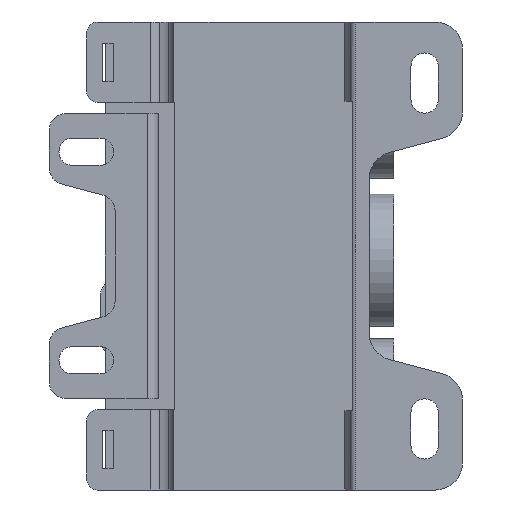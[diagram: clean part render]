
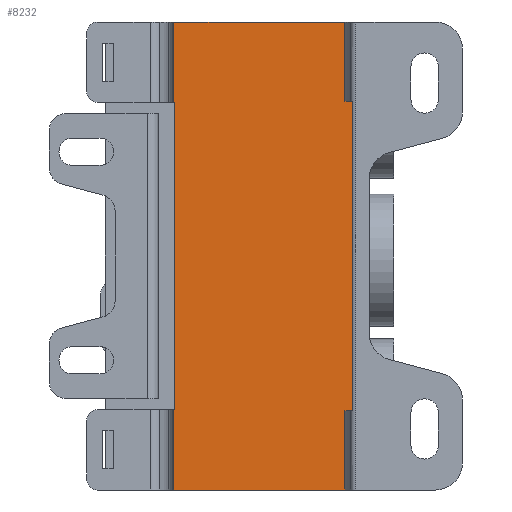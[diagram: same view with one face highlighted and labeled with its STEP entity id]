
A CAD part, front view. The second image highlights one B-rep face of the part: STEP entity #8232.
In plain terms, the highlighted planar face has unit normal (0, -1, 0).
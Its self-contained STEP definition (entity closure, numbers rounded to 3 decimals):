
#8232 = ADVANCED_FACE('',(#8233),#8247,.F.);
#8233 = FACE_BOUND('',#8234,.T.);
#8234 = EDGE_LOOP('',(#8235,#8258,#8274,#8290,#8306,#8322,#8338,#8354));
#8235 = ORIENTED_EDGE('',*,*,#8236,.F.);
#8236 = EDGE_CURVE('',#8237,#8239,#8241,.T.);
#8237 = VERTEX_POINT('',#8238);
#8238 = CARTESIAN_POINT('',(774.886,97.102,-14.7));
#8239 = VERTEX_POINT('',#8240);
#8240 = CARTESIAN_POINT('',(774.841,97.102,-14.7));
#8241 = SURFACE_CURVE('',#8242,(#8246),.PCURVE_S1.);
#8242 = LINE('',#8243,#8244);
#8243 = CARTESIAN_POINT('',(807.436,97.102,-14.7));
#8244 = VECTOR('',#8245,1.);
#8245 = DIRECTION('',(-1.,0.,0.));
#8246 = PCURVE('',#8247,#8252);
#8247 = PLANE('',#8248);
#8248 = AXIS2_PLACEMENT_3D('',#8249,#8250,#8251);
#8249 = CARTESIAN_POINT('',(807.436,97.102,-85.5));
#8250 = DIRECTION('',(0.,1.,0.));
#8251 = DIRECTION('',(-1.,0.,0.));
#8252 = DEFINITIONAL_REPRESENTATION('',(#8253),#8257);
#8253 = LINE('',#8254,#8255);
#8254 = CARTESIAN_POINT('',(0.,70.8));
#8255 = VECTOR('',#8256,1.);
#8256 = DIRECTION('',(1.,0.));
#8257 = ( GEOMETRIC_REPRESENTATION_CONTEXT(2) 
PARAMETRIC_REPRESENTATION_CONTEXT() REPRESENTATION_CONTEXT('2D SPACE',''
  ) );
#8258 = ORIENTED_EDGE('',*,*,#8259,.F.);
#8259 = EDGE_CURVE('',#8260,#8237,#8262,.T.);
#8260 = VERTEX_POINT('',#8261);
#8261 = CARTESIAN_POINT('',(774.886,97.102,-70.8));
#8262 = SURFACE_CURVE('',#8263,(#8267),.PCURVE_S1.);
#8263 = LINE('',#8264,#8265);
#8264 = CARTESIAN_POINT('',(774.886,97.102,-85.5));
#8265 = VECTOR('',#8266,1.);
#8266 = DIRECTION('',(0.,0.,1.));
#8267 = PCURVE('',#8247,#8268);
#8268 = DEFINITIONAL_REPRESENTATION('',(#8269),#8273);
#8269 = LINE('',#8270,#8271);
#8270 = CARTESIAN_POINT('',(32.55,0.));
#8271 = VECTOR('',#8272,1.);
#8272 = DIRECTION('',(0.,1.));
#8273 = ( GEOMETRIC_REPRESENTATION_CONTEXT(2) 
PARAMETRIC_REPRESENTATION_CONTEXT() REPRESENTATION_CONTEXT('2D SPACE',''
  ) );
#8274 = ORIENTED_EDGE('',*,*,#8275,.T.);
#8275 = EDGE_CURVE('',#8260,#8276,#8278,.T.);
#8276 = VERTEX_POINT('',#8277);
#8277 = CARTESIAN_POINT('',(774.841,97.102,-70.8));
#8278 = SURFACE_CURVE('',#8279,(#8283),.PCURVE_S1.);
#8279 = LINE('',#8280,#8281);
#8280 = CARTESIAN_POINT('',(807.436,97.102,-70.8));
#8281 = VECTOR('',#8282,1.);
#8282 = DIRECTION('',(-1.,0.,0.));
#8283 = PCURVE('',#8247,#8284);
#8284 = DEFINITIONAL_REPRESENTATION('',(#8285),#8289);
#8285 = LINE('',#8286,#8287);
#8286 = CARTESIAN_POINT('',(0.,14.7));
#8287 = VECTOR('',#8288,1.);
#8288 = DIRECTION('',(1.,0.));
#8289 = ( GEOMETRIC_REPRESENTATION_CONTEXT(2) 
PARAMETRIC_REPRESENTATION_CONTEXT() REPRESENTATION_CONTEXT('2D SPACE',''
  ) );
#8290 = ORIENTED_EDGE('',*,*,#8291,.F.);
#8291 = EDGE_CURVE('',#8292,#8276,#8294,.T.);
#8292 = VERTEX_POINT('',#8293);
#8293 = CARTESIAN_POINT('',(774.841,97.102,-85.5));
#8294 = SURFACE_CURVE('',#8295,(#8299),.PCURVE_S1.);
#8295 = LINE('',#8296,#8297);
#8296 = CARTESIAN_POINT('',(774.841,97.102,-85.5));
#8297 = VECTOR('',#8298,1.);
#8298 = DIRECTION('',(0.,0.,1.));
#8299 = PCURVE('',#8247,#8300);
#8300 = DEFINITIONAL_REPRESENTATION('',(#8301),#8305);
#8301 = LINE('',#8302,#8303);
#8302 = CARTESIAN_POINT('',(32.595,0.));
#8303 = VECTOR('',#8304,1.);
#8304 = DIRECTION('',(0.,1.));
#8305 = ( GEOMETRIC_REPRESENTATION_CONTEXT(2) 
PARAMETRIC_REPRESENTATION_CONTEXT() REPRESENTATION_CONTEXT('2D SPACE',''
  ) );
#8306 = ORIENTED_EDGE('',*,*,#8307,.F.);
#8307 = EDGE_CURVE('',#8308,#8292,#8310,.T.);
#8308 = VERTEX_POINT('',#8309);
#8309 = CARTESIAN_POINT('',(807.436,97.102,-85.5));
#8310 = SURFACE_CURVE('',#8311,(#8315),.PCURVE_S1.);
#8311 = LINE('',#8312,#8313);
#8312 = CARTESIAN_POINT('',(807.436,97.102,-85.5));
#8313 = VECTOR('',#8314,1.);
#8314 = DIRECTION('',(-1.,0.,0.));
#8315 = PCURVE('',#8247,#8316);
#8316 = DEFINITIONAL_REPRESENTATION('',(#8317),#8321);
#8317 = LINE('',#8318,#8319);
#8318 = CARTESIAN_POINT('',(0.,0.));
#8319 = VECTOR('',#8320,1.);
#8320 = DIRECTION('',(1.,0.));
#8321 = ( GEOMETRIC_REPRESENTATION_CONTEXT(2) 
PARAMETRIC_REPRESENTATION_CONTEXT() REPRESENTATION_CONTEXT('2D SPACE',''
  ) );
#8322 = ORIENTED_EDGE('',*,*,#8323,.T.);
#8323 = EDGE_CURVE('',#8308,#8324,#8326,.T.);
#8324 = VERTEX_POINT('',#8325);
#8325 = CARTESIAN_POINT('',(807.436,97.102,0.));
#8326 = SURFACE_CURVE('',#8327,(#8331),.PCURVE_S1.);
#8327 = LINE('',#8328,#8329);
#8328 = CARTESIAN_POINT('',(807.436,97.102,-85.5));
#8329 = VECTOR('',#8330,1.);
#8330 = DIRECTION('',(0.,0.,1.));
#8331 = PCURVE('',#8247,#8332);
#8332 = DEFINITIONAL_REPRESENTATION('',(#8333),#8337);
#8333 = LINE('',#8334,#8335);
#8334 = CARTESIAN_POINT('',(0.,0.));
#8335 = VECTOR('',#8336,1.);
#8336 = DIRECTION('',(0.,1.));
#8337 = ( GEOMETRIC_REPRESENTATION_CONTEXT(2) 
PARAMETRIC_REPRESENTATION_CONTEXT() REPRESENTATION_CONTEXT('2D SPACE',''
  ) );
#8338 = ORIENTED_EDGE('',*,*,#8339,.T.);
#8339 = EDGE_CURVE('',#8324,#8340,#8342,.T.);
#8340 = VERTEX_POINT('',#8341);
#8341 = CARTESIAN_POINT('',(774.841,97.102,0.));
#8342 = SURFACE_CURVE('',#8343,(#8347),.PCURVE_S1.);
#8343 = LINE('',#8344,#8345);
#8344 = CARTESIAN_POINT('',(807.436,97.102,0.));
#8345 = VECTOR('',#8346,1.);
#8346 = DIRECTION('',(-1.,0.,0.));
#8347 = PCURVE('',#8247,#8348);
#8348 = DEFINITIONAL_REPRESENTATION('',(#8349),#8353);
#8349 = LINE('',#8350,#8351);
#8350 = CARTESIAN_POINT('',(0.,85.5));
#8351 = VECTOR('',#8352,1.);
#8352 = DIRECTION('',(1.,0.));
#8353 = ( GEOMETRIC_REPRESENTATION_CONTEXT(2) 
PARAMETRIC_REPRESENTATION_CONTEXT() REPRESENTATION_CONTEXT('2D SPACE',''
  ) );
#8354 = ORIENTED_EDGE('',*,*,#8355,.F.);
#8355 = EDGE_CURVE('',#8239,#8340,#8356,.T.);
#8356 = SURFACE_CURVE('',#8357,(#8361),.PCURVE_S1.);
#8357 = LINE('',#8358,#8359);
#8358 = CARTESIAN_POINT('',(774.841,97.102,-85.5));
#8359 = VECTOR('',#8360,1.);
#8360 = DIRECTION('',(0.,0.,1.));
#8361 = PCURVE('',#8247,#8362);
#8362 = DEFINITIONAL_REPRESENTATION('',(#8363),#8367);
#8363 = LINE('',#8364,#8365);
#8364 = CARTESIAN_POINT('',(32.595,0.));
#8365 = VECTOR('',#8366,1.);
#8366 = DIRECTION('',(0.,1.));
#8367 = ( GEOMETRIC_REPRESENTATION_CONTEXT(2) 
PARAMETRIC_REPRESENTATION_CONTEXT() REPRESENTATION_CONTEXT('2D SPACE',''
  ) );
